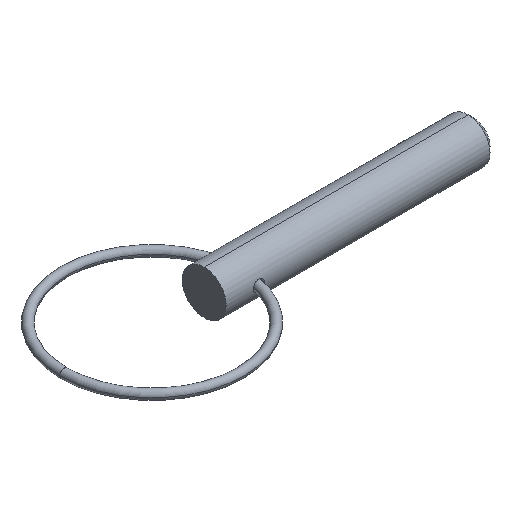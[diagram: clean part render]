
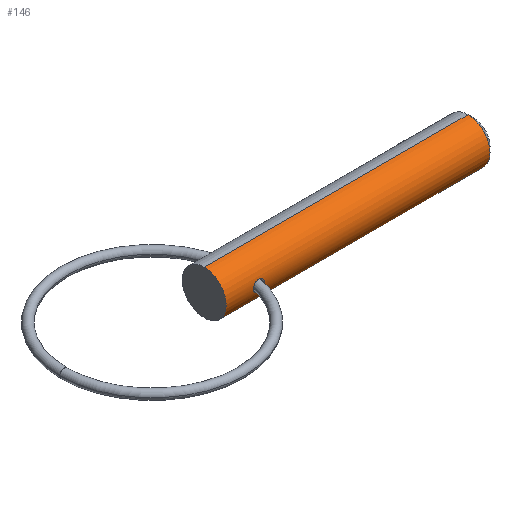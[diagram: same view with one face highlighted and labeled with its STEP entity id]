
A CAD part, isometric view. The second image highlights one B-rep face of the part: STEP entity #146.
In plain terms, the highlighted cylindrical face has radius 3.175 mm (diameter 6.35 mm), a partial arc.
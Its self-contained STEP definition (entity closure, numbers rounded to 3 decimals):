
#11 = ORIENTED_EDGE ( 'NONE', *, *, #513, .T. ) ;
#41 = EDGE_CURVE ( 'NONE', #775, #713, #129, .T. ) ;
#68 = B_SPLINE_CURVE_WITH_KNOTS ( 'NONE', 3,
 ( #281, #598, #539, #657, #209, #79, #727, #810, #524, #210, #747, #225, #517, #392 ),
 .UNSPECIFIED., .F., .F.,
 ( 4, 2, 2, 2, 2, 2, 4 ),
 ( 0.003, 0.003, 0.004, 0.004, 0.005, 0.005, 0.005 ),
 .UNSPECIFIED. ) ;
#79 = CARTESIAN_POINT ( 'NONE',  ( 4.992, -3.078, -0.778 ) ) ;
#82 = DIRECTION ( 'NONE',  ( 1., 0., 0. ) ) ;
#92 = CARTESIAN_POINT ( 'NONE',  ( 4.567, -3.075, 0.789 ) ) ;
#97 = FACE_BOUND ( 'NONE', #706, .T. ) ;
#101 = CARTESIAN_POINT ( 'NONE',  ( 4.36, -3.099, 0.705 ) ) ;
#106 = VECTOR ( 'NONE', #82, 1000. ) ;
#113 = CARTESIAN_POINT ( 'NONE',  ( 5.189, -3.097, 0.702 ) ) ;
#129 = LINE ( 'NONE', #776, #284 ) ;
#146 = ADVANCED_FACE ( 'NONE', ( #495, #97 ), #740, .T. ) ;
#168 = CARTESIAN_POINT ( 'NONE',  ( 38.116, 0., 0. ) ) ;
#171 = CARTESIAN_POINT ( 'NONE',  ( 0., 0., 3.175 ) ) ;
#173 = AXIS2_PLACEMENT_3D ( 'NONE', #168, #797, #552 ) ;
#185 = EDGE_CURVE ( 'NONE', #780, #713, #325, .T. ) ;
#193 = ORIENTED_EDGE ( 'NONE', *, *, #41, .T. ) ;
#209 = CARTESIAN_POINT ( 'NONE',  ( 5.188, -3.097, -0.702 ) ) ;
#210 = CARTESIAN_POINT ( 'NONE',  ( 4.127, -3.138, -0.49 ) ) ;
#225 = CARTESIAN_POINT ( 'NONE',  ( 3.974, -3.169, -0.212 ) ) ;
#235 = CARTESIAN_POINT ( 'NONE',  ( 4.127, -3.138, 0.49 ) ) ;
#237 = CARTESIAN_POINT ( 'NONE',  ( 3.95, -3.175, 0. ) ) ;
#239 = ORIENTED_EDGE ( 'NONE', *, *, #714, .T. ) ;
#242 = CIRCLE ( 'NONE', #381, 3.175 ) ;
#281 = CARTESIAN_POINT ( 'NONE',  ( 5.59, -3.175, 0. ) ) ;
#284 = VECTOR ( 'NONE', #730, 1000. ) ;
#289 = CARTESIAN_POINT ( 'NONE',  ( 3.95, -3.175, 0. ) ) ;
#301 = CARTESIAN_POINT ( 'NONE',  ( 5.569, -3.169, 0.212 ) ) ;
#303 = CARTESIAN_POINT ( 'NONE',  ( 4.992, -3.078, 0.778 ) ) ;
#306 = DIRECTION ( 'NONE',  ( 1., 0., 0. ) ) ;
#308 = CARTESIAN_POINT ( 'NONE',  ( 5.59, -3.175, 0. ) ) ;
#317 = CARTESIAN_POINT ( 'NONE',  ( 4.886, -3.074, 0.796 ) ) ;
#325 = CIRCLE ( 'NONE', #173, 3.175 ) ;
#330 = ORIENTED_EDGE ( 'NONE', *, *, #460, .T. ) ;
#348 = EDGE_CURVE ( 'NONE', #544, #780, #661, .T. ) ;
#358 = DIRECTION ( 'NONE',  ( 0., 0., -1. ) ) ;
#363 = CARTESIAN_POINT ( 'NONE',  ( 5.279, -3.11, 0.644 ) ) ;
#376 = CARTESIAN_POINT ( 'NONE',  ( 5.59, -3.175, 0.106 ) ) ;
#381 = AXIS2_PLACEMENT_3D ( 'NONE', #698, #306, #565 ) ;
#384 = CARTESIAN_POINT ( 'NONE',  ( 5.429, -3.137, 0.497 ) ) ;
#392 = CARTESIAN_POINT ( 'NONE',  ( 3.95, -3.175, 0. ) ) ;
#419 = DIRECTION ( 'NONE',  ( 1., 0., 0. ) ) ;
#426 = CARTESIAN_POINT ( 'NONE',  ( 0., 0., 0. ) ) ;
#449 = ORIENTED_EDGE ( 'NONE', *, *, #185, .F. ) ;
#460 = EDGE_CURVE ( 'NONE', #715, #596, #68, .T. ) ;
#495 = FACE_OUTER_BOUND ( 'NONE', #506, .T. ) ;
#506 = EDGE_LOOP ( 'NONE', ( #523, #239, #193, #449 ) ) ;
#508 = CARTESIAN_POINT ( 'NONE',  ( 5.489, -3.15, 0.407 ) ) ;
#513 = EDGE_CURVE ( 'NONE', #596, #715, #671, .T. ) ;
#517 = CARTESIAN_POINT ( 'NONE',  ( 3.95, -3.175, -0.106 ) ) ;
#523 = ORIENTED_EDGE ( 'NONE', *, *, #348, .F. ) ;
#524 = CARTESIAN_POINT ( 'NONE',  ( 4.359, -3.099, -0.704 ) ) ;
#539 = CARTESIAN_POINT ( 'NONE',  ( 5.504, -3.15, -0.423 ) ) ;
#544 = VERTEX_POINT ( 'NONE', #171 ) ;
#552 = DIRECTION ( 'NONE',  ( 0., 0., -1. ) ) ;
#554 = CARTESIAN_POINT ( 'NONE',  ( 3.95, -3.175, 0.106 ) ) ;
#565 = DIRECTION ( 'NONE',  ( 0., 0., -1. ) ) ;
#579 = CARTESIAN_POINT ( 'NONE',  ( 0., 0., -3.175 ) ) ;
#588 = CARTESIAN_POINT ( 'NONE',  ( 0., 0., 3.175 ) ) ;
#596 = VERTEX_POINT ( 'NONE', #237 ) ;
#598 = CARTESIAN_POINT ( 'NONE',  ( 5.59, -3.175, -0.212 ) ) ;
#625 = CARTESIAN_POINT ( 'NONE',  ( 38.116, 0., -3.175 ) ) ;
#631 = AXIS2_PLACEMENT_3D ( 'NONE', #426, #419, #358 ) ;
#657 = CARTESIAN_POINT ( 'NONE',  ( 5.279, -3.11, -0.644 ) ) ;
#661 = LINE ( 'NONE', #588, #106 ) ;
#671 = B_SPLINE_CURVE_WITH_KNOTS ( 'NONE', 3,
 ( #289, #554, #682, #817, #235, #101, #92, #317, #303, #113, #363, #384, #508, #301, #376, #749 ),
 .UNSPECIFIED., .F., .F.,
 ( 4, 2, 2, 2, 2, 2, 2, 4 ),
 ( 0., 0.001, 0.001, 0.002, 0.002, 0.002, 0.003, 0.003 ),
 .UNSPECIFIED. ) ;
#682 = CARTESIAN_POINT ( 'NONE',  ( 3.974, -3.169, 0.212 ) ) ;
#698 = CARTESIAN_POINT ( 'NONE',  ( 0., 0., 0. ) ) ;
#706 = EDGE_LOOP ( 'NONE', ( #11, #330 ) ) ;
#713 = VERTEX_POINT ( 'NONE', #625 ) ;
#714 = EDGE_CURVE ( 'NONE', #544, #775, #242, .T. ) ;
#715 = VERTEX_POINT ( 'NONE', #308 ) ;
#727 = CARTESIAN_POINT ( 'NONE',  ( 4.885, -3.074, -0.796 ) ) ;
#730 = DIRECTION ( 'NONE',  ( 1., 0., 0. ) ) ;
#740 = CYLINDRICAL_SURFACE ( 'NONE', #631, 3.175 ) ;
#747 = CARTESIAN_POINT ( 'NONE',  ( 4.064, -3.151, -0.404 ) ) ;
#749 = CARTESIAN_POINT ( 'NONE',  ( 5.59, -3.175, 0. ) ) ;
#774 = CARTESIAN_POINT ( 'NONE',  ( 38.116, 0., 3.175 ) ) ;
#775 = VERTEX_POINT ( 'NONE', #579 ) ;
#776 = CARTESIAN_POINT ( 'NONE',  ( 0., 0., -3.175 ) ) ;
#780 = VERTEX_POINT ( 'NONE', #774 ) ;
#797 = DIRECTION ( 'NONE',  ( 1., 0., 0. ) ) ;
#810 = CARTESIAN_POINT ( 'NONE',  ( 4.568, -3.075, -0.789 ) ) ;
#817 = CARTESIAN_POINT ( 'NONE',  ( 4.063, -3.151, 0.403 ) ) ;
